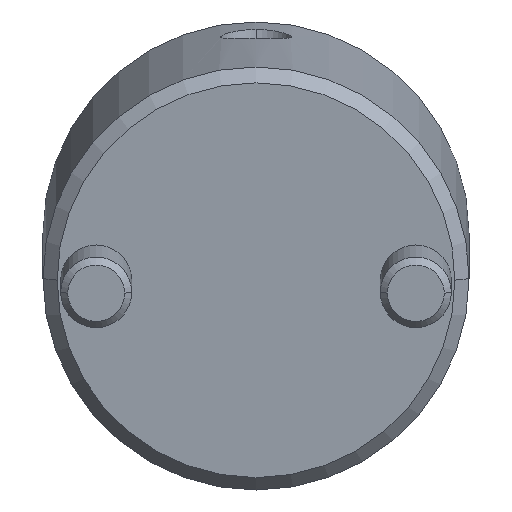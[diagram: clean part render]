
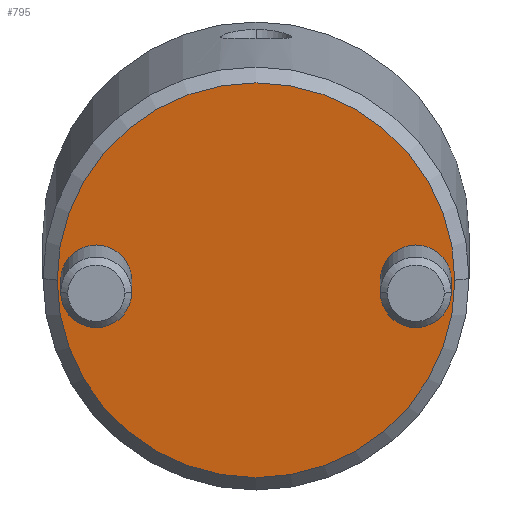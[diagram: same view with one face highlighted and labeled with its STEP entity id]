
A CAD part, front view. The second image highlights one B-rep face of the part: STEP entity #795.
In plain terms, the highlighted planar face has unit normal (0, -0.993, -0.122) as drawn and (0, 0, -1) by its records, which use the part's own axes.
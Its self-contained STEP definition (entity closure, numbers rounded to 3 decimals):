
#416=CARTESIAN_POINT('',(0.,0.,0.));
#417=DIRECTION('',(0.,0.,-1.));
#418=DIRECTION('',(0.,-1.,0.));
#419=AXIS2_PLACEMENT_3D('',#416,#417,#418);
#421=CARTESIAN_POINT('',(0.,0.,
0.));
#422=DIRECTION('',(0.,0.,-1.));
#423=DIRECTION('',(0.,1.,0.));
#424=AXIS2_PLACEMENT_3D('',#421,#422,#423);
#426=CARTESIAN_POINT('',(0.,-11.25,0.));
#427=DIRECTION('',(0.,0.,-1.));
#428=DIRECTION('',(0.,-1.,0.));
#429=AXIS2_PLACEMENT_3D('',#426,#427,#428);
#431=CARTESIAN_POINT('',(0.,-11.25,0.));
#432=DIRECTION('',(0.,0.,-1.));
#433=DIRECTION('',(0.,1.,0.));
#434=AXIS2_PLACEMENT_3D('',#431,#432,#433);
#436=CARTESIAN_POINT('',(0.,11.25,0.));
#437=DIRECTION('',(0.,0.,-1.));
#438=DIRECTION('',(0.,-1.,0.));
#439=AXIS2_PLACEMENT_3D('',#436,#437,#438);
#441=CARTESIAN_POINT('',(0.,11.25,0.));
#442=DIRECTION('',(0.,0.,-1.));
#443=DIRECTION('',(0.,1.,0.));
#444=AXIS2_PLACEMENT_3D('',#441,#442,#443);
#722=CARTESIAN_POINT('',(0.,-14.,0.));
#723=CARTESIAN_POINT('',(0.,14.,0.));
#724=VERTEX_POINT('',#722);
#725=VERTEX_POINT('',#723);
#748=CARTESIAN_POINT('',(0.,-13.75,0.));
#749=CARTESIAN_POINT('',(0.,-8.75,0.));
#750=VERTEX_POINT('',#748);
#751=VERTEX_POINT('',#749);
#752=CARTESIAN_POINT('',(0.,8.75,0.));
#753=CARTESIAN_POINT('',(0.,13.75,0.));
#754=VERTEX_POINT('',#752);
#755=VERTEX_POINT('',#753);
#772=CARTESIAN_POINT('',(0.,0.,0.));
#773=DIRECTION('',(0.,0.,1.));
#774=DIRECTION('',(0.,1.,0.));
#775=AXIS2_PLACEMENT_3D('',#772,#773,#774);
#776=PLANE('',#775);
#778=ORIENTED_EDGE('',*,*,#777,.F.);
#780=ORIENTED_EDGE('',*,*,#779,.F.);
#781=EDGE_LOOP('',(#778,#780));
#782=FACE_OUTER_BOUND('',#781,.F.);
#784=ORIENTED_EDGE('',*,*,#783,.T.);
#786=ORIENTED_EDGE('',*,*,#785,.T.);
#787=EDGE_LOOP('',(#784,#786));
#788=FACE_BOUND('',#787,.F.);
#790=ORIENTED_EDGE('',*,*,#789,.T.);
#792=ORIENTED_EDGE('',*,*,#791,.T.);
#793=EDGE_LOOP('',(#790,#792));
#794=FACE_BOUND('',#793,.F.);
#795=ADVANCED_FACE('',(#782,#788,#794),#776,.F.);
#420=CIRCLE('',#419,14.);
#425=CIRCLE('',#424,14.);
#430=CIRCLE('',#429,2.5);
#435=CIRCLE('',#434,2.5);
#440=CIRCLE('',#439,2.5);
#445=CIRCLE('',#444,2.5);
#777=EDGE_CURVE('',#724,#725,#420,.T.);
#779=EDGE_CURVE('',#725,#724,#425,.T.);
#783=EDGE_CURVE('',#750,#751,#430,.T.);
#785=EDGE_CURVE('',#751,#750,#435,.T.);
#789=EDGE_CURVE('',#754,#755,#440,.T.);
#791=EDGE_CURVE('',#755,#754,#445,.T.);
